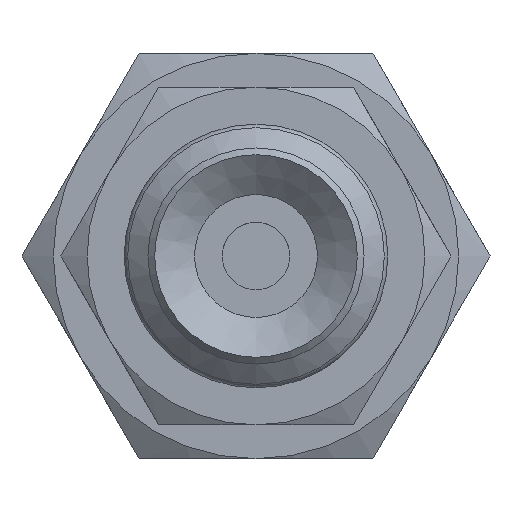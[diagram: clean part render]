
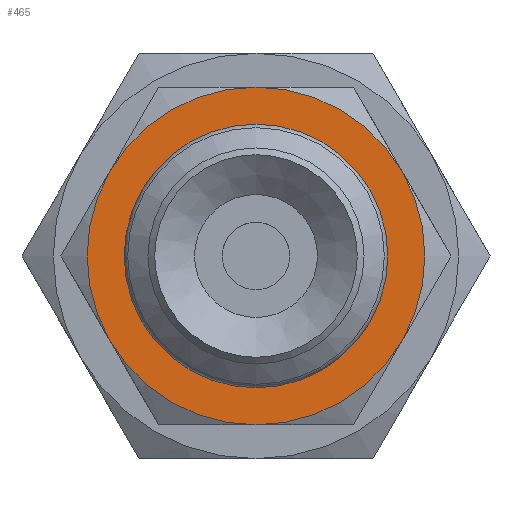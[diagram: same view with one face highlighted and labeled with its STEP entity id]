
A CAD part, front view. The second image highlights one B-rep face of the part: STEP entity #465.
In plain terms, the highlighted planar face has unit normal (0, -1, 0).
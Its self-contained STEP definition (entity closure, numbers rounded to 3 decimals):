
#465=ADVANCED_FACE('',(#673,#674),#675,.T.);
#673=FACE_BOUND('',#966,.T.);
#674=FACE_OUTER_BOUND('',#967,.T.);
#675=PLANE('',#968);
#966=EDGE_LOOP('',(#1566));
#967=EDGE_LOOP('',(#1567,#1568,#1569,#1570,#1571,#1572));
#968=AXIS2_PLACEMENT_3D('',#1573,#1574,#1575);
#1566=ORIENTED_EDGE('',*,*,#2027,.F.);
#1567=ORIENTED_EDGE('',*,*,#2029,.T.);
#1568=ORIENTED_EDGE('',*,*,#1987,.T.);
#1569=ORIENTED_EDGE('',*,*,#1971,.T.);
#1570=ORIENTED_EDGE('',*,*,#2005,.T.);
#1571=ORIENTED_EDGE('',*,*,#1999,.T.);
#1572=ORIENTED_EDGE('',*,*,#1993,.T.);
#1573=CARTESIAN_POINT('',(2.0,0.,0.0));
#1574=DIRECTION('',(0.0,-1.0,0.0));
#1575=DIRECTION('',(0.0,0.0,-1.0));
#1971=EDGE_CURVE('',#2242,#2244,#2246,.T.);
#1987=EDGE_CURVE('',#2262,#2242,#2274,.T.);
#1993=EDGE_CURVE('',#2284,#2275,#2285,.T.);
#1999=EDGE_CURVE('',#2294,#2284,#2295,.T.);
#2005=EDGE_CURVE('',#2244,#2294,#2302,.T.);
#2027=EDGE_CURVE('',#2343,#2343,#2344,.T.);
#2029=EDGE_CURVE('',#2275,#2262,#2347,.T.);
#2242=VERTEX_POINT('',#2884);
#2244=VERTEX_POINT('',#2888);
#2246=CIRCLE('',#2892,5.0);
#2262=VERTEX_POINT('',#2918);
#2274=CIRCLE('',#2942,5.0);
#2275=VERTEX_POINT('',#2943);
#2284=VERTEX_POINT('',#2961);
#2285=CIRCLE('',#2962,5.0);
#2294=VERTEX_POINT('',#2980);
#2295=CIRCLE('',#2981,5.0);
#2302=CIRCLE('',#2996,5.0);
#2343=VERTEX_POINT('',#3052);
#2344=CIRCLE('',#3053,2.0);
#2347=CIRCLE('',#3056,5.0);
#2884=CARTESIAN_POINT('',(4.33,0.0,2.5));
#2888=CARTESIAN_POINT('',(0.0,0.0,5.0));
#2892=AXIS2_PLACEMENT_3D('',#3350,#3351,#3352);
#2918=CARTESIAN_POINT('',(4.33,0.0,-2.5));
#2942=AXIS2_PLACEMENT_3D('',#3363,#3364,#3365);
#2943=CARTESIAN_POINT('',(0.0,0.0,-5.0));
#2961=CARTESIAN_POINT('',(-4.33,0.0,-2.5));
#2962=AXIS2_PLACEMENT_3D('',#3367,#3368,#3369);
#2980=CARTESIAN_POINT('',(-4.33,0.,2.5));
#2981=AXIS2_PLACEMENT_3D('',#3371,#3372,#3373);
#2996=AXIS2_PLACEMENT_3D('',#3377,#3378,#3379);
#3052=CARTESIAN_POINT('',(0.0,0.,-2.0));
#3053=AXIS2_PLACEMENT_3D('',#3413,#3414,#3415);
#3056=AXIS2_PLACEMENT_3D('',#3419,#3420,#3421);
#3350=CARTESIAN_POINT('',(0.0,0.,0.0));
#3351=DIRECTION('',(0.0,-1.0,0.0));
#3352=DIRECTION('',(0.0,0.0,-1.0));
#3363=CARTESIAN_POINT('',(0.0,0.,0.0));
#3364=DIRECTION('',(0.0,-1.0,0.0));
#3365=DIRECTION('',(0.0,0.0,-1.0));
#3367=CARTESIAN_POINT('',(0.0,0.,0.0));
#3368=DIRECTION('',(0.0,-1.0,0.0));
#3369=DIRECTION('',(0.0,0.0,-1.0));
#3371=CARTESIAN_POINT('',(0.0,0.,0.0));
#3372=DIRECTION('',(0.0,-1.0,0.0));
#3373=DIRECTION('',(0.0,0.0,-1.0));
#3377=CARTESIAN_POINT('',(0.0,0.,0.0));
#3378=DIRECTION('',(0.0,-1.0,0.0));
#3379=DIRECTION('',(0.0,0.0,-1.0));
#3413=CARTESIAN_POINT('',(0.0,0.,0.0));
#3414=DIRECTION('',(0.0,-1.0,0.0));
#3415=DIRECTION('',(0.0,0.0,-1.0));
#3419=CARTESIAN_POINT('',(0.0,0.,0.0));
#3420=DIRECTION('',(0.0,-1.0,0.0));
#3421=DIRECTION('',(0.0,0.0,-1.0));
